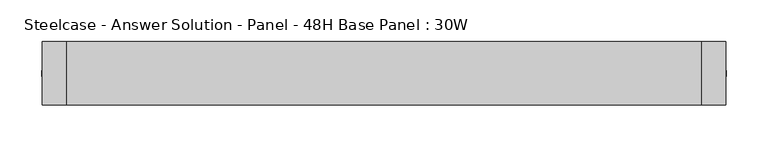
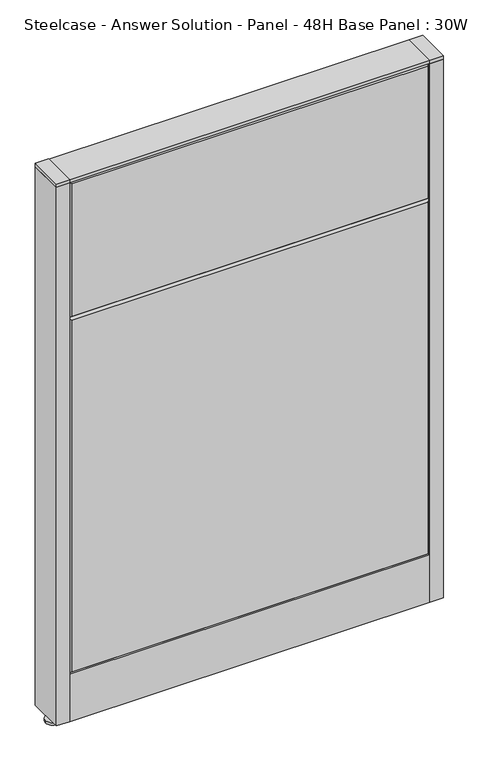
"""IFC4 building model written with IfcOpenShell, lengths in millimetres: furniture geometry, Steelcase - Answer Solution - Panel - 48H Base Panel : 30W."""

from ifc_helpers import new_model, si_unit, point, frame, frame_2d, origin, place, context, project, spatial, polyline, circle_curve, trimmed, segment, composite_curve, outline, extrude, faceted_brep, source, transform, mapped, element, save


def steelcase_answer_solution_panel_48h_base_panel_30w_47044b1c(model_context):
    return source(origin(), model_context, "Body", "SolidModel", [
        extrude(outline(composite_curve([segment(trimmed(circle_curve(frame_2d((395.224, 0.0320214)), 5.08), [point((400.304, 0.0320214))], [point((390.144, 0.0320214))], False, "CARTESIAN"), True, "CONTINUOUS"), segment(trimmed(circle_curve(frame_2d((395.224, 0.0320214)), 5.08), [point((390.144, 0.0320214))], [point((400.304, 0.0320214))], False, "CARTESIAN"), True, "CONTINUOUS")], self_intersect=False)), frame((0.0, 0.0, 5.0799671), z_axis=(0.0, 0.0, 1.0), x_axis=(1.0, 0.0, 0.0)), (0.0, 0.0, 1.0), 10.414),
        extrude(outline(composite_curve([segment(trimmed(circle_curve(frame_2d((395.224, 0.0320214)), 15.24), [point((410.464, 0.0320214))], [point((379.984, 0.0320214))], False, "CARTESIAN"), True, "CONTINUOUS"), segment(trimmed(circle_curve(frame_2d((395.224, 0.0320214)), 15.24), [point((379.984, 0.0320214))], [point((410.464, 0.0320214))], False, "CARTESIAN"), True, "CONTINUOUS")], self_intersect=False)), frame((0.0, 0.0, -3.29e-05), z_axis=(0.0, 0.0, 1.0), x_axis=(1.0, 0.0, 0.0)), (0.0, 0.0, 1.0), 5.08),
        extrude(outline(polyline([(409.575, 38.1320408), (409.575, -38.0679592), (381.0, -38.0679592), (381.0, 38.1320408), (409.575, 38.1320408)])), frame((0.0, 0.0, 1218.2348), z_axis=(0.0, 0.0, 1.0), x_axis=(1.0, 0.0, 0.0)), (0.0, 0.0, 1.0), 7.3151671),
        extrude(outline(polyline([(409.575, 38.1320408), (409.575, -38.0679592), (381.0, -38.0679592), (381.0, 38.1320408), (409.575, 38.1320408)])), frame((0.0, 0.0, 15.4939671), z_axis=(0.0, 0.0, 1.0), x_axis=(1.0, 0.0, 0.0)), (0.0, 0.0, 1.0), 1202.7408329),
        extrude(outline(composite_curve([segment(trimmed(circle_curve(frame_2d((-395.224, 0.0320214)), 5.08), [point((-400.304, 0.0320214))], [point((-390.144, 0.0320214))], False, "CARTESIAN"), True, "CONTINUOUS"), segment(trimmed(circle_curve(frame_2d((-395.224, 0.0320214)), 5.08), [point((-390.144, 0.0320214))], [point((-400.304, 0.0320214))], False, "CARTESIAN"), True, "CONTINUOUS")], self_intersect=False)), frame((0.0, 0.0, 5.0799671), z_axis=(0.0, 0.0, 1.0), x_axis=(1.0, 0.0, 0.0)), (0.0, 0.0, 1.0), 10.414),
        extrude(outline(composite_curve([segment(trimmed(circle_curve(frame_2d((-395.224, 0.0320214)), 15.24), [point((-410.464, 0.0320214))], [point((-379.984, 0.0320214))], False, "CARTESIAN"), True, "CONTINUOUS"), segment(trimmed(circle_curve(frame_2d((-395.224, 0.0320214)), 15.24), [point((-379.984, 0.0320214))], [point((-410.464, 0.0320214))], False, "CARTESIAN"), True, "CONTINUOUS")], self_intersect=False)), frame((0.0, 0.0, -3.29e-05), z_axis=(0.0, 0.0, 1.0), x_axis=(1.0, 0.0, 0.0)), (0.0, 0.0, 1.0), 5.08),
        extrude(outline(polyline([(-409.575, 38.1320408), (-381.0, 38.1320408), (-381.0, -38.0679592), (-409.575, -38.0679592), (-409.575, 38.1320408)])), frame((0.0, 0.0, 1218.2348), z_axis=(0.0, 0.0, 1.0), x_axis=(1.0, 0.0, 0.0)), (0.0, 0.0, 1.0), 7.3151671),
        extrude(outline(polyline([(-409.575, 38.1320408), (-381.0, 38.1320408), (-381.0, -38.0679592), (-409.575, -38.0679592), (-409.575, 38.1320408)])), frame((0.0, 0.0, 15.4939671), z_axis=(0.0, 0.0, 1.0), x_axis=(1.0, 0.0, 0.0)), (0.0, 0.0, 1.0), 1202.7408329),
        faceted_brep([(-376.174, 38.1635011, 1214.374), (376.174, 38.1635011, 1214.374), (376.174, 38.1635011, 919.226), (-376.174, 38.1635011, 919.226), (-381.0, 33.3375011, 1219.2), (-381.0, 33.3375011, 914.4), (381.0, 33.3375011, 914.4), (381.0, 33.3375011, 1219.2)], [[[0, 1, 2, 3]], [[4, 5, 6, 7]], [[4, 7, 1, 0]], [[7, 6, 2, 1]], [[6, 5, 3, 2]], [[5, 4, 0, 3]]]),
        faceted_brep([(-376.174, 38.1635011, 909.574), (376.174, 38.1635011, 909.574), (376.174, 38.1635011, 125.476), (-376.174, 38.1635011, 125.476), (-381.0, 33.3375011, 914.4), (-381.0, 33.3375011, 120.65), (381.0, 33.3375011, 120.65), (381.0, 33.3375011, 914.4)], [[[0, 1, 2, 3]], [[4, 5, 6, 7]], [[4, 7, 1, 0]], [[7, 6, 2, 1]], [[6, 5, 3, 2]], [[5, 4, 0, 3]]]),
        faceted_brep([(376.174, -38.1635011, 1214.374), (-376.174, -38.1635011, 1214.374), (-376.174, -38.1635011, 919.226), (376.174, -38.1635011, 919.226), (381.0, -33.3375011, 1219.2), (381.0, -33.3375011, 914.4), (-381.0, -33.3375011, 914.4), (-381.0, -33.3375011, 1219.2)], [[[0, 1, 2, 3]], [[4, 5, 6, 7]], [[4, 7, 1, 0]], [[7, 6, 2, 1]], [[6, 5, 3, 2]], [[5, 4, 0, 3]]]),
        faceted_brep([(376.174, -38.1635011, 909.574), (-376.174, -38.1635011, 909.574), (-376.174, -38.1635011, 125.476), (376.174, -38.1635011, 125.476), (381.0, -33.3375011, 914.4), (381.0, -33.3375011, 120.65), (-381.0, -33.3375011, 120.65), (-381.0, -33.3375011, 914.4)], [[[0, 1, 2, 3]], [[4, 5, 6, 7]], [[4, 7, 1, 0]], [[7, 6, 2, 1]], [[6, 5, 3, 2]], [[5, 4, 0, 3]]]),
        extrude(outline(polyline([(381.0, 38.1000194), (381.0, -38.1000194), (-381.0, -38.1000194), (-381.0, 38.1000194), (381.0, 38.1000194)])), frame((0.0, 0.0, 1219.2), z_axis=(0.0, 0.0, 1.0), x_axis=(1.0, 0.0, 0.0)), (0.0, 0.0, 1.0), 6.35),
        extrude(outline(polyline([(25.4000011, 119.8575157), (25.4000011, 120.65), (38.1000194, 120.65), (38.1000194, 15.494), (37.3075215, 15.494), (37.3075215, 119.8575157), (25.4000011, 119.8575157)])), frame((-381.0, 0.0, 0.0), z_axis=(1.0, 0.0, 0.0), x_axis=(0.0, 1.0, 0.0)), (0.0, 0.0, 1.0), 762.0),
        extrude(outline(polyline([(-25.4000011, 119.8575157), (-37.3075215, 119.8575157), (-37.3075215, 15.494), (-38.1000194, 15.494), (-38.1000194, 120.65), (-25.4000011, 120.65), (-25.4000011, 119.8575157)])), frame((-381.0, 0.0, 0.0), z_axis=(1.0, 0.0, 0.0), x_axis=(0.0, 1.0, 0.0)), (0.0, 0.0, 1.0), 762.0),
    ])


if __name__ == "__main__":
    model = new_model("IFC4")
    model_context = context("Model", 3, world=origin())
    ifc_project = project(units=[si_unit("LENGTHUNIT", "METRE", prefix="MILLI")], contexts=[model_context])
    site = spatial("IfcSite", under=ifc_project)
    building = spatial("IfcBuilding", under=site)
    placement = place(None, origin())
    steelcase_answer_solution_panel_48h_base_panel_30w_shape = steelcase_answer_solution_panel_48h_base_panel_30w_47044b1c(model_context)
    element("IfcFurniture", 1, ObjectType="Steelcase - Answer Solution - Panel - 48H Base Panel : 30W", at=placement, inside=building, context=model_context, shape_type="MappedRepresentation", body=[
        mapped(steelcase_answer_solution_panel_48h_base_panel_30w_shape, transform((0.0, 0.0, 0.0), x_axis=(1.0, 0.0, 0.0), y_axis=(0.0, 1.0, 0.0), z_axis=(0.0, 0.0, 1.0))),
    ])
    save(model, "model.ifc")
